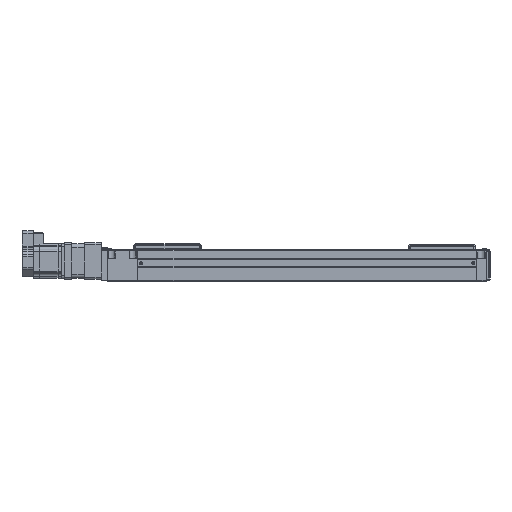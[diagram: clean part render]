
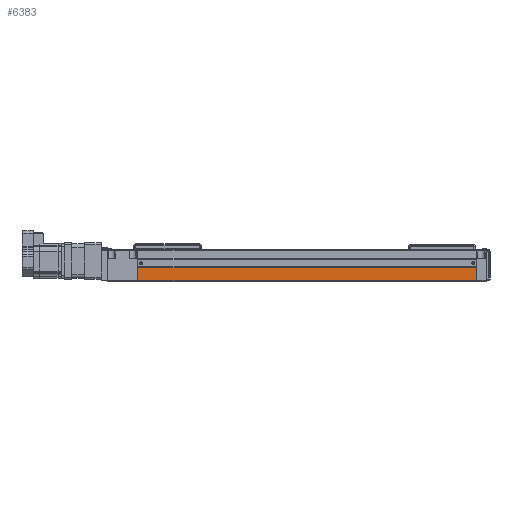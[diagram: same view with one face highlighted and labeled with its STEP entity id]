
A CAD part, front view. The second image highlights one B-rep face of the part: STEP entity #6383.
In plain terms, the highlighted planar face has unit normal (0, -1, 0).
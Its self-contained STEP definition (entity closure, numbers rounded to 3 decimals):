
#6383=ADVANCED_FACE('',(#12897),#12898,.F.);
#12897=FACE_OUTER_BOUND('',#21677,.T.);
#12898=PLANE('',#21678);
#21677=EDGE_LOOP('',(#39949,#39950,#39951,#39952));
#21678=AXIS2_PLACEMENT_3D('',#39953,#39954,#39955);
#39949=ORIENTED_EDGE('',*,*,#51500,.F.);
#39950=ORIENTED_EDGE('',*,*,#49121,.T.);
#39951=ORIENTED_EDGE('',*,*,#45482,.F.);
#39952=ORIENTED_EDGE('',*,*,#49898,.F.);
#39953=CARTESIAN_POINT('',(792.528,-103.2,-44.15));
#39954=DIRECTION('',(0.,1.0,0.0));
#39955=DIRECTION('',(0.0,0.0,1.0));
#45482=EDGE_CURVE('',#54908,#54903,#54910,.T.);
#49121=EDGE_CURVE('',#60669,#54903,#60670,.T.);
#49898=EDGE_CURVE('',#61726,#54908,#61728,.T.);
#51500=EDGE_CURVE('',#60669,#61726,#63648,.T.);
#54903=VERTEX_POINT('',#68173);
#54908=VERTEX_POINT('',#68179);
#54910=LINE('',#68181,#68182);
#60669=VERTEX_POINT('',#76448);
#60670=LINE('',#76449,#76450);
#61726=VERTEX_POINT('',#77967);
#61728=LINE('',#77969,#77970);
#63648=LINE('',#80714,#80715);
#68173=CARTESIAN_POINT('',(792.528,-103.2,-44.15));
#68179=CARTESIAN_POINT('',(1347.528,-103.2,-44.15));
#68181=CARTESIAN_POINT('',(1070.028,-103.2,-44.15));
#68182=VECTOR('',#83185,2.176);
#76448=CARTESIAN_POINT('',(792.528,-103.2,-23.15));
#76449=CARTESIAN_POINT('',(792.528,-103.2,-20.15));
#76450=VECTOR('',#86914,1.0);
#77967=CARTESIAN_POINT('',(1347.528,-103.2,-23.15));
#77969=CARTESIAN_POINT('',(1347.528,-103.2,-20.15));
#77970=VECTOR('',#87694,1.0);
#80714=CARTESIAN_POINT('',(1070.028,-103.2,-23.15));
#80715=VECTOR('',#89083,2.176);
#83185=DIRECTION('',(-1.0,0.,0.0));
#86914=DIRECTION('',(0.0,0.0,-1.0));
#87694=DIRECTION('',(0.0,0.0,-1.0));
#89083=DIRECTION('',(1.0,0.,0.0));
